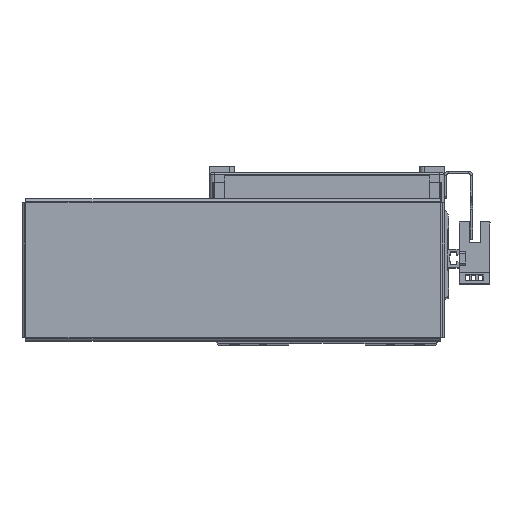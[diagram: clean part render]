
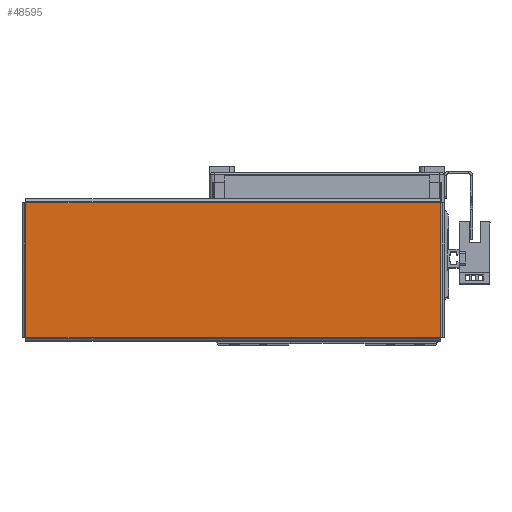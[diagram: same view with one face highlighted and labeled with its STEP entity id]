
A CAD part, top view. The second image highlights one B-rep face of the part: STEP entity #48595.
In plain terms, the highlighted planar face has unit normal (0, 0, 1) as drawn and (0, -1, 0) by its records, which use the part's own axes.
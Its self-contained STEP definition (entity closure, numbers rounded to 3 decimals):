
#455 = FACE_OUTER_BOUND ( 'NONE', #33907, .T. ) ;
#1973 = DIRECTION ( 'NONE',  ( 0., 0., 1. ) ) ;
#1977 = DIRECTION ( 'NONE',  ( 0., 1., 0. ) ) ;
#1984 = CARTESIAN_POINT ( 'NONE',  ( 0., -1., 0. ) ) ;
#1996 = PLANE ( 'NONE',  #17395 ) ;
#4232 = CARTESIAN_POINT ( 'NONE',  ( 91.863, -1., -29.763 ) ) ;
#4333 = CARTESIAN_POINT ( 'NONE',  ( -91.863, -1., -29.763 ) ) ;
#4362 = CARTESIAN_POINT ( 'NONE',  ( -91.863, -1., 29.763 ) ) ;
#10645 = DIRECTION ( 'NONE',  ( -1., 0., 0. ) ) ;
#11083 = DIRECTION ( 'NONE',  ( 0., 0., -1. ) ) ;
#11097 = CARTESIAN_POINT ( 'NONE',  ( -91.863, -1., 29.793 ) ) ;
#11217 = CARTESIAN_POINT ( 'NONE',  ( 91.863, -1., -29.793 ) ) ;
#11243 = CARTESIAN_POINT ( 'NONE',  ( 91.893, -1., 29.763 ) ) ;
#11245 = DIRECTION ( 'NONE',  ( 0., 0., 1. ) ) ;
#13058 = DIRECTION ( 'NONE',  ( 1., 0., 0. ) ) ;
#13069 = CARTESIAN_POINT ( 'NONE',  ( -91.893, -1., -29.763 ) ) ;
#15703 = VECTOR ( 'NONE', #11083, 1000. ) ;
#15705 = LINE ( 'NONE', #11097, #15703 ) ;
#15749 = VECTOR ( 'NONE', #10645, 1000. ) ;
#15765 = LINE ( 'NONE', #11243, #15749 ) ;
#15778 = VECTOR ( 'NONE', #11245, 1000. ) ;
#15804 = LINE ( 'NONE', #11217, #15778 ) ;
#15826 = LINE ( 'NONE', #13069, #15849 ) ;
#15849 = VECTOR ( 'NONE', #13058, 1000. ) ;
#17395 = AXIS2_PLACEMENT_3D ( 'NONE', #1984, #1977, #1973 ) ;
#28813 = EDGE_CURVE ( 'NONE', #49877, #49863, #15705, .T. ) ;
#28862 = EDGE_CURVE ( 'NONE', #49852, #49856, #15804, .T. ) ;
#28864 = EDGE_CURVE ( 'NONE', #49856, #49877, #15765, .T. ) ;
#28905 = EDGE_CURVE ( 'NONE', #49863, #49852, #15826, .T. ) ;
#29646 = ORIENTED_EDGE ( 'NONE', *, *, #28813, .T. ) ;
#29717 = ORIENTED_EDGE ( 'NONE', *, *, #28905, .T. ) ;
#29738 = ORIENTED_EDGE ( 'NONE', *, *, #28862, .T. ) ;
#29745 = ORIENTED_EDGE ( 'NONE', *, *, #28864, .T. ) ;
#33907 = EDGE_LOOP ( 'NONE', ( #29717, #29738, #29745, #29646 ) ) ;
#43106 = CARTESIAN_POINT ( 'NONE',  ( 91.863, -1., 29.763 ) ) ;
#48595 = ADVANCED_FACE ( 'NONE', ( #455 ), #1996, .F. ) ;
#49852 = VERTEX_POINT ( 'NONE', #4232 ) ;
#49856 = VERTEX_POINT ( 'NONE', #43106 ) ;
#49863 = VERTEX_POINT ( 'NONE', #4333 ) ;
#49877 = VERTEX_POINT ( 'NONE', #4362 ) ;
